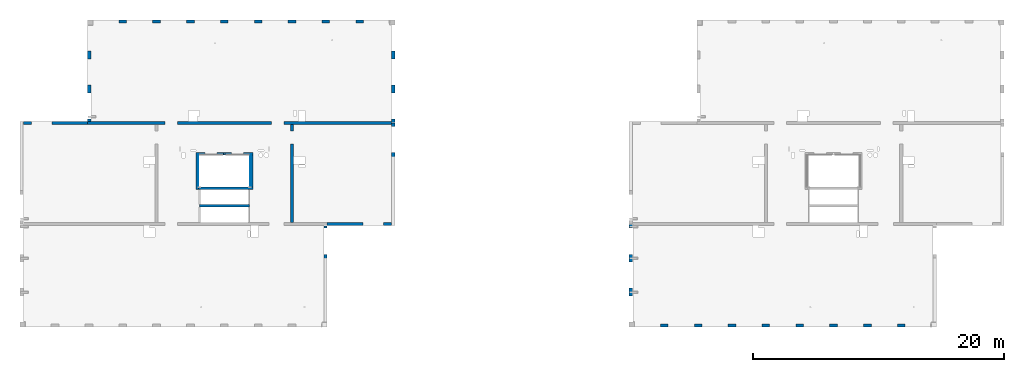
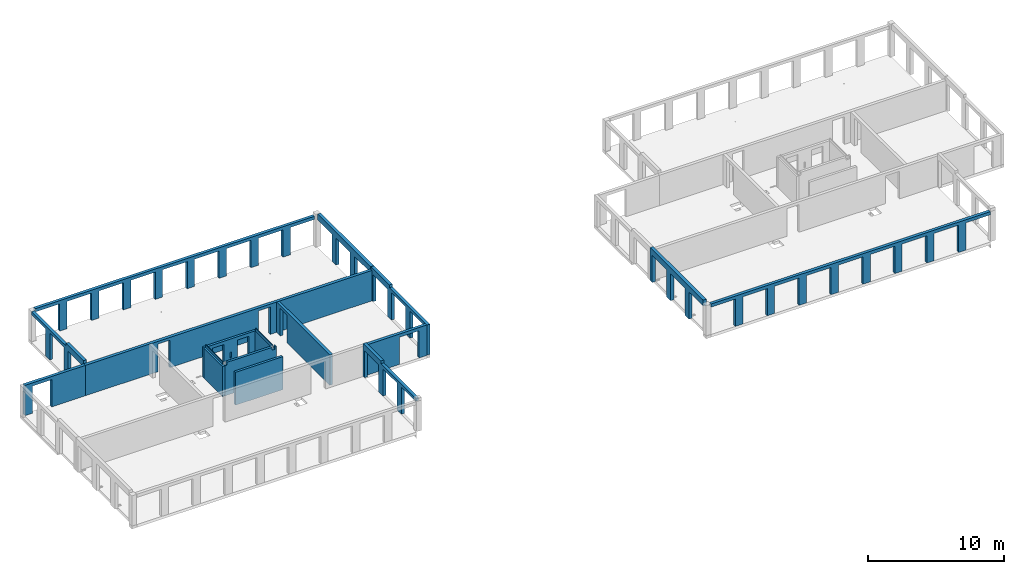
# One storey, part 3 of 8: 18 walls, 46 openings.
"""IFC2X3 building model written with IfcOpenShell, lengths in millimetres."""

from ifc_helpers import new_model, entity, si_unit, converted_unit, derived_unit, direction, frame, frame_2d, origin, origin_2d_with_axis, place, context, subcontext, project, spatial, rectangle, extrude, material, layer, layer_set, layer_usage, type_object, element, save


model = new_model("IFC2X3")

# Units and contexts
model_context = context("Model", 3, precision=0.01, world=origin(), true_north=direction((6.12303176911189e-17, 1.0)))
body_context = subcontext(model_context, "Body", "Model", "MODEL_VIEW")
ifc_project = project(units=[si_unit("LENGTHUNIT", "METRE", prefix="MILLI"), si_unit("AREAUNIT", "SQUARE_METRE"), si_unit("VOLUMEUNIT", "CUBIC_METRE"), converted_unit("PLANEANGLEUNIT", "DEGREE", entity("IfcRatioMeasure", 0.0174532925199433), si_unit("PLANEANGLEUNIT", "RADIAN"), dimensions=[0, 0, 0, 0, 0, 0, 0]), si_unit("MASSUNIT", "GRAM", prefix="KILO"), derived_unit("MASSDENSITYUNIT", [(si_unit("MASSUNIT", "GRAM", prefix="KILO"), 1), (si_unit("LENGTHUNIT", "METRE"), -3)]), si_unit("TIMEUNIT", "SECOND"), si_unit("FREQUENCYUNIT", "HERTZ"), si_unit("THERMODYNAMICTEMPERATUREUNIT", "DEGREE_CELSIUS"), derived_unit("THERMALTRANSMITTANCEUNIT", [(si_unit("MASSUNIT", "GRAM", prefix="KILO"), 1), (si_unit("THERMODYNAMICTEMPERATUREUNIT", "KELVIN"), -1), (si_unit("TIMEUNIT", "SECOND"), -3)]), derived_unit("VOLUMETRICFLOWRATEUNIT", [(si_unit("LENGTHUNIT", "METRE"), 3), (si_unit("TIMEUNIT", "SECOND"), -1)]), si_unit("ELECTRICCURRENTUNIT", "AMPERE"), si_unit("ELECTRICVOLTAGEUNIT", "VOLT"), si_unit("POWERUNIT", "WATT"), si_unit("FORCEUNIT", "NEWTON", prefix="KILO"), si_unit("ILLUMINANCEUNIT", "LUX"), si_unit("LUMINOUSFLUXUNIT", "LUMEN"), si_unit("LUMINOUSINTENSITYUNIT", "CANDELA"), derived_unit("USERDEFINED", [(si_unit("MASSUNIT", "GRAM", prefix="KILO"), -1), (si_unit("LENGTHUNIT", "METRE"), -2), (si_unit("TIMEUNIT", "SECOND"), 3), (si_unit("LUMINOUSFLUXUNIT", "LUMEN"), 1)]), derived_unit("LINEARVELOCITYUNIT", [(si_unit("LENGTHUNIT", "METRE"), 1), (si_unit("TIMEUNIT", "SECOND"), -1)]), si_unit("PRESSUREUNIT", "PASCAL"), derived_unit("USERDEFINED", [(si_unit("LENGTHUNIT", "METRE"), -2), (si_unit("MASSUNIT", "GRAM", prefix="KILO"), 1), (si_unit("TIMEUNIT", "SECOND"), -2)])], contexts=[model_context])

# Site, building, storey
site_placement = place(None, origin())
site = spatial("IfcSite", under=ifc_project, at=site_placement, Name="Default", CompositionType="ELEMENT")
building_placement = place(site_placement, origin())
building = spatial("IfcBuilding", under=site, at=building_placement, Name="niet gebruiken", CompositionType="ELEMENT")
storey_placement = place(building_placement, frame((0.0, 0.0, 42300.0)))
storey = spatial("IfcBuildingStorey", under=building, at=storey_placement, Name="14 veertiende verdieping", CompositionType="ELEMENT", Elevation=42300.0)

# Wall, opening
ifc_material_1 = material(Name="NLRS_f2_beton ihwg")
ifc_layer_1 = layer(ifc_material_1, 250.0)
ifc_layer_set_1 = layer_set([ifc_layer_1], Name="Basic Wall:NLRS_22.21_WA_beton ihwg d=250_gen")
ifc_layer_usage_1 = layer_usage(ifc_layer_set_1, "AXIS2", "NEGATIVE", 125.0)
wall_type_1 = type_object("IfcWallType", Name="Basic Wall:NLRS_22.21_WA_beton ihwg d=250_gen", PredefinedType="STANDARD", material=ifc_layer_set_1)
wall_1_placement = place(storey_placement, frame((27170.0, 45031.0, -90.0)))
wall_1 = element("IfcWallStandardCase", 1, at=wall_1_placement, inside=storey, type_object=wall_type_1, material=ifc_layer_usage_1, Name="Basic Wall:NLRS_22.21_WA_beton ihwg d=250_gen", ObjectType="Basic Wall:NLRS_22.21_WA_beton ihwg d=250_gen", context=body_context, shape_type="SweptSolid", body=[
    extrude(rectangle(XDim=5130.0, YDim=249.999999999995, at=frame_2d((2565.0, 0.0), x_axis=(-1.0, 0.0))), origin(), (0.0, 0.0, 1.0), 2719.99999999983),
])
opening_1_placement = place(wall_1_placement, origin())
element("IfcOpeningElement", 2, at=opening_1_placement, cuts=wall_1, Name="Basic Wall:NLRS_22.21_WA_beton ihwg d=250_gen", ObjectType="Opening", context=body_context, shape_type="SweptSolid", body=[
    extrude(rectangle(XDim=2440.0, YDim=1640.0, at=origin_2d_with_axis()), frame((1460.0, -1649.0, 1220.0), z_axis=(0.0, 1.0, 0.0), x_axis=(0.0, 0.0, 1.0)), (0.0, 0.0, 1.0), 3048.0),
])

ifc_layer_usage_2 = layer_usage(ifc_layer_set_1, "AXIS2", "NEGATIVE", 125.0)
wall_2_placement = place(storey_placement, frame((48600.0, 44906.0, -90.0), z_axis=(0.0, 0.0, 1.0), x_axis=(0.0, -1.0, 0.0)))
wall_2 = element("IfcWallStandardCase", 3, at=wall_2_placement, inside=storey, type_object=wall_type_1, material=ifc_layer_usage_2, Name="Basic Wall:NLRS_22.21_WA_beton ihwg d=250_gen", ObjectType="Basic Wall:NLRS_22.21_WA_beton ihwg d=250_gen", context=body_context, shape_type="SweptSolid", body=[
    extrude(rectangle(XDim=7799.99999999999, YDim=249.999999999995, at=frame_2d((3900.0, 0.0), x_axis=(-1.0, 0.0))), origin(), (0.0, 0.0, 1.0), 2719.99999999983),
])
opening_2_placement = place(wall_2_placement, origin())
element("IfcOpeningElement", 4, at=opening_2_placement, cuts=wall_2, Name="Basic Wall:NLRS_22.21_WA_beton ihwg d=250_gen", ObjectType="Opening", context=body_context, shape_type="SweptSolid", body=[
    extrude(rectangle(XDim=2470.0, YDim=1006.0, at=frame_2d((4.43378667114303e-12, 0.0), x_axis=(1.0, 0.0))), frame((1027.0, -1649.0, 1235.0), z_axis=(0.0, 1.0, 0.0), x_axis=(0.0, 0.0, 1.0)), (0.0, 0.0, 1.0), 3048.0),
])

# Wall, openings
ifc_layer_usage_3 = layer_usage(ifc_layer_set_1, "AXIS2", "NEGATIVE", 125.0)
wall_3_placement = place(storey_placement, frame((32300.0, 45031.0, -90.0)))
wall_3 = element("IfcWallStandardCase", 5, at=wall_3_placement, inside=storey, type_object=wall_type_1, material=ifc_layer_usage_3, Name="Basic Wall:NLRS_22.21_WA_beton ihwg d=250_gen", ObjectType="Basic Wall:NLRS_22.21_WA_beton ihwg d=250_gen", context=body_context, shape_type="SweptSolid", body=[
    extrude(rectangle(XDim=24250.0, YDim=249.999999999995, at=frame_2d((12125.0, 0.0), x_axis=(-1.0, 0.0))), origin(), (0.0, 0.0, 1.0), 2719.99999999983),
])
opening_3_placement = place(wall_3_placement, origin())
element("IfcOpeningElement", 6, at=opening_3_placement, cuts=wall_3, Name="Basic Wall:NLRS_22.21_WA_beton ihwg d=250_gen", ObjectType="Opening", context=body_context, shape_type="SweptSolid", body=[
    extrude(rectangle(XDim=2470.0, YDim=1006.0, at=frame_2d((-4.43378667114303e-12, 0.0), x_axis=(1.0, 0.0))), frame((15148.0, -1649.0, 1235.0), z_axis=(0.0, 1.0, 0.0), x_axis=(0.0, 0.0, 1.0)), (0.0, 0.0, 1.0), 3048.0),
])
opening_4_placement = place(wall_3_placement, origin())
element("IfcOpeningElement", 7, at=opening_4_placement, cuts=wall_3, Name="Basic Wall:NLRS_22.21_WA_beton ihwg d=250_gen", ObjectType="Opening", context=body_context, shape_type="SweptSolid", body=[
    extrude(rectangle(XDim=2470.0, YDim=1006.0, at=frame_2d((4.43378667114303e-12, 2.1600499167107e-12), x_axis=(1.0, 0.0))), frame((6652.0, -1649.0, 1235.0), z_axis=(0.0, 1.0, 0.0), x_axis=(0.0, 0.0, 1.0)), (0.0, 0.0, 1.0), 3048.0),
])

# Wall, opening
ifc_layer_usage_4 = layer_usage(ifc_layer_set_1, "AXIS2", "NEGATIVE", 125.0)
wall_4_placement = place(storey_placement, frame((51400.0, 36981.0, -90.0)))
wall_4 = element("IfcWallStandardCase", 8, at=wall_4_placement, inside=storey, type_object=wall_type_1, material=ifc_layer_usage_4, Name="Basic Wall:NLRS_22.21_WA_beton ihwg d=250_gen", ObjectType="Basic Wall:NLRS_22.21_WA_beton ihwg d=250_gen", context=body_context, shape_type="SweptSolid", body=[
    extrude(rectangle(XDim=5150.0, YDim=250.000000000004, at=frame_2d((2575.0, 0.0), x_axis=(-1.0, 0.0))), origin(), (0.0, 0.0, 1.0), 2719.99999999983),
])
opening_5_placement = place(wall_4_placement, origin())
element("IfcOpeningElement", 9, at=opening_5_placement, cuts=wall_4, Name="Basic Wall:NLRS_22.21_WA_beton ihwg d=250_gen", ObjectType="Opening", context=body_context, shape_type="SweptSolid", body=[
    extrude(rectangle(XDim=2440.0, YDim=1640.0, at=frame_2d((-4.37694325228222e-12, 0.0), x_axis=(0.0, 1.0))), frame((3670.0, -1399.0, 1220.0), z_axis=(0.0, 1.0, 0.0), x_axis=(-1.0, 0.0, 0.0)), (0.0, 0.0, 1.0), 3048.0),
])

# Wall, openings
ifc_material_2 = material(Name="NLRS_f2_beton prefab")
ifc_layer_2 = layer(ifc_material_2, 250.0)
ifc_layer_set_2 = layer_set([ifc_layer_2], Name="Basic Wall:NLRS_21.21_WA_beton prefab d=250_gen")
ifc_layer_usage_5 = layer_usage(ifc_layer_set_2, "AXIS2", "NEGATIVE", 125.0)
wall_type_2 = type_object("IfcWallType", Name="Basic Wall:NLRS_21.21_WA_beton prefab d=250_gen", PredefinedType="STANDARD", material=ifc_layer_set_2)
wall_5_placement = place(storey_placement, frame((32425.0, 52846.0, -70.0), z_axis=(0.0, 0.0, 1.0), x_axis=(0.0, -1.0, 0.0)))
wall_5 = element("IfcWallStandardCase", 10, at=wall_5_placement, inside=storey, type_object=wall_type_2, material=ifc_layer_usage_5, Name="Basic Wall:NLRS_21.21_WA_beton prefab d=250_gen", ObjectType="Basic Wall:NLRS_21.21_WA_beton prefab d=250_gen", context=body_context, shape_type="SweptSolid", body=[
    extrude(rectangle(XDim=7670.00000000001, YDim=250.000000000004, at=frame_2d((3835.0, 0.0), x_axis=(-1.0, 0.0))), origin(), (0.0, 0.0, 1.0), 2949.99999999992),
])
opening_6_placement = place(wall_5_placement, origin())
element("IfcOpeningElement", 11, at=opening_6_placement, cuts=wall_5, Name="Basic Wall:NLRS_21.21_WA_beton prefab d=250_gen", ObjectType="Opening", context=body_context, shape_type="SweptSolid", body=[
    extrude(rectangle(XDim=2420.0, YDim=2080.0, at=frame_2d((0.0, 0.0), x_axis=(0.0, 1.0))), frame((1040.0, -1399.0, 1210.0), z_axis=(0.0, 1.0, 0.0), x_axis=(-1.0, 0.0, 0.0)), (0.0, 0.0, 1.0), 3048.0),
])
opening_7_placement = place(wall_5_placement, origin())
element("IfcOpeningElement", 12, at=opening_7_placement, cuts=wall_5, Name="Basic Wall:NLRS_21.21_WA_beton prefab d=250_gen", ObjectType="Opening", context=body_context, shape_type="SweptSolid", body=[
    extrude(rectangle(XDim=2420.0, YDim=2080.0, at=frame_2d((0.0, 0.0), x_axis=(0.0, 1.0))), frame((3740.0, -1399.0, 1210.0), z_axis=(0.0, 1.0, 0.0), x_axis=(-1.0, 0.0, 0.0)), (0.0, 0.0, 1.0), 3048.0),
])
opening_8_placement = place(wall_5_placement, origin())
element("IfcOpeningElement", 13, at=opening_8_placement, cuts=wall_5, Name="Basic Wall:NLRS_21.21_WA_beton prefab d=250_gen", ObjectType="Opening", context=body_context, shape_type="SweptSolid", body=[
    extrude(rectangle(XDim=2420.0, YDim=2080.0, at=frame_2d((0.0, 0.0), x_axis=(0.0, 1.0))), frame((6440.0, -1399.0, 1210.0), z_axis=(0.0, 1.0, 0.0), x_axis=(-1.0, 0.0, 0.0)), (0.0, 0.0, 1.0), 3048.0),
])
opening_9_placement = place(wall_5_placement, origin())
element("IfcOpeningElement", 14, at=opening_9_placement, cuts=wall_5, Name="Basic Wall:NLRS_21.21_WA_beton prefab d=250_gen", ObjectType="Opening", context=body_context, shape_type="SweptSolid", body=[
    extrude(rectangle(XDim=250.000000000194, YDim=5089.99999999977, at=frame_2d((4.32009983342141e-12, -4.32720526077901e-12), x_axis=(0.0, 1.0))), frame((2545.0, 125.0, 2825.0), z_axis=(0.0, -1.0, 0.0), x_axis=(-1.0, 0.0, 0.0)), (0.0, 0.0, 1.0), 250.0),
])

ifc_layer_usage_6 = layer_usage(ifc_layer_set_2, "AXIS2", "NEGATIVE", 125.0)
wall_6_placement = place(storey_placement, frame((56675.0, 45046.0, -70.0), z_axis=(0.0, 0.0, 1.0), x_axis=(0.0, -1.0, 0.0)))
wall_6 = element("IfcWallStandardCase", 15, at=wall_6_placement, inside=storey, type_object=wall_type_2, material=ifc_layer_usage_6, Name="Basic Wall:NLRS_21.21_WA_beton prefab d=250_gen", ObjectType="Basic Wall:NLRS_21.21_WA_beton prefab d=250_gen", context=body_context, shape_type="SweptSolid", body=[
    extrude(rectangle(XDim=8189.99999999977, YDim=249.999999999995, at=frame_2d((4094.99999999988, 0.0), x_axis=(-1.0, 0.0))), origin(), (0.0, 0.0, 1.0), 2949.99999999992),
])
opening_10_placement = place(wall_6_placement, origin())
element("IfcOpeningElement", 16, at=opening_10_placement, cuts=wall_6, Name="Basic Wall:NLRS_21.21_WA_beton prefab d=250_gen", ObjectType="Opening", context=body_context, shape_type="SweptSolid", body=[
    extrude(rectangle(XDim=2420.0, YDim=2080.0, at=frame_2d((0.0, 0.0), x_axis=(0.0, 1.0))), frame((1340.0, -1399.0, 1210.0), z_axis=(0.0, 1.0, 0.0), x_axis=(-1.0, 0.0, 0.0)), (0.0, 0.0, 1.0), 3048.0),
])
opening_11_placement = place(wall_6_placement, origin())
element("IfcOpeningElement", 17, at=opening_11_placement, cuts=wall_6, Name="Basic Wall:NLRS_21.21_WA_beton prefab d=250_gen", ObjectType="Opening", context=body_context, shape_type="SweptSolid", body=[
    extrude(rectangle(XDim=2420.0, YDim=2080.0, at=frame_2d((0.0, 0.0), x_axis=(0.0, 1.0))), frame((4040.0, -1399.0, 1210.0), z_axis=(0.0, 1.0, 0.0), x_axis=(-1.0, 0.0, 0.0)), (0.0, 0.0, 1.0), 3048.0),
])
opening_12_placement = place(wall_6_placement, origin())
element("IfcOpeningElement", 18, at=opening_12_placement, cuts=wall_6, Name="Basic Wall:NLRS_21.21_WA_beton prefab d=250_gen", ObjectType="Opening", context=body_context, shape_type="SweptSolid", body=[
    extrude(rectangle(XDim=2420.0, YDim=2080.0, at=frame_2d((0.0, 0.0), x_axis=(0.0, 1.0))), frame((6740.0, -1399.0, 1210.0), z_axis=(0.0, 1.0, 0.0), x_axis=(-1.0, 0.0, 0.0)), (0.0, 0.0, 1.0), 3048.0),
])
opening_13_placement = place(wall_6_placement, origin())
element("IfcOpeningElement", 19, at=opening_13_placement, cuts=wall_6, Name="Basic Wall:NLRS_21.21_WA_beton prefab d=250_gen", ObjectType="Opening", context=body_context, shape_type="SweptSolid", body=[
    extrude(rectangle(XDim=249.999999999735, YDim=5500.0000000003, at=frame_2d((0.0, -4.32009983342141e-12), x_axis=(1.0, 0.0))), frame((5440.0, 125.0, 2825.0), z_axis=(0.0, -1.0, 0.0), x_axis=(0.0, 0.0, 1.0)), (0.0, 0.0, 1.0), 250.0),
])

ifc_layer_usage_7 = layer_usage(ifc_layer_set_2, "AXIS2", "NEGATIVE", 125.0)
wall_7_placement = place(storey_placement, frame((51275.0, 29166.0, -70.0), z_axis=(0.0, 0.0, 1.0), x_axis=(0.0, 1.0, 0.0)))
wall_7 = element("IfcWallStandardCase", 20, at=wall_7_placement, inside=storey, type_object=wall_type_2, material=ifc_layer_usage_7, Name="Basic Wall:NLRS_21.21_WA_beton prefab d=250_gen", ObjectType="Basic Wall:NLRS_21.21_WA_beton prefab d=250_gen", context=body_context, shape_type="SweptSolid", body=[
    extrude(rectangle(XDim=7669.99999999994, YDim=249.999999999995, at=frame_2d((3834.99999999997, 0.0), x_axis=(-1.0, 0.0))), origin(), (0.0, 0.0, 1.0), 2949.99999999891),
])
opening_14_placement = place(wall_7_placement, origin())
element("IfcOpeningElement", 21, at=opening_14_placement, cuts=wall_7, Name="Basic Wall:NLRS_21.21_WA_beton prefab d=250_gen", ObjectType="Opening", context=body_context, shape_type="SweptSolid", body=[
    extrude(rectangle(XDim=2420.0, YDim=2080.0, at=frame_2d((-2.1600499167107e-12, 0.0), x_axis=(0.0, 1.0))), frame((1040.0, -1399.0, 1210.0), z_axis=(0.0, 1.0, 0.0), x_axis=(-1.0, 0.0, 0.0)), (0.0, 0.0, 1.0), 3048.0),
])
opening_15_placement = place(wall_7_placement, origin())
element("IfcOpeningElement", 22, at=opening_15_placement, cuts=wall_7, Name="Basic Wall:NLRS_21.21_WA_beton prefab d=250_gen", ObjectType="Opening", context=body_context, shape_type="SweptSolid", body=[
    extrude(rectangle(XDim=2420.0, YDim=2080.0, at=frame_2d((2.1600499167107e-12, 0.0), x_axis=(0.0, 1.0))), frame((6440.0, -1399.0, 1210.0), z_axis=(0.0, 1.0, 0.0), x_axis=(-1.0, 0.0, 0.0)), (0.0, 0.0, 1.0), 3048.0),
])
opening_16_placement = place(wall_7_placement, origin())
element("IfcOpeningElement", 23, at=opening_16_placement, cuts=wall_7, Name="Basic Wall:NLRS_21.21_WA_beton prefab d=250_gen", ObjectType="Opening", context=body_context, shape_type="SweptSolid", body=[
    extrude(rectangle(XDim=2420.0, YDim=2080.0, at=frame_2d((2.1600499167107e-12, 0.0), x_axis=(0.0, 1.0))), frame((3740.0, -1399.0, 1210.0), z_axis=(0.0, 1.0, 0.0), x_axis=(-1.0, 0.0, 0.0)), (0.0, 0.0, 1.0), 3048.0),
])
opening_17_placement = place(wall_7_placement, origin())
element("IfcOpeningElement", 24, at=opening_17_placement, cuts=wall_7, Name="Basic Wall:NLRS_21.21_WA_beton prefab d=250_gen", ObjectType="Opening", context=body_context, shape_type="SweptSolid", body=[
    extrude(rectangle(XDim=249.999999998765, YDim=5090.00000000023, at=frame_2d((0.0, 0.0), x_axis=(0.0, 1.0))), frame((2545.0, 125.0, 2825.0), z_axis=(0.0, -1.0, 0.0), x_axis=(-1.0, 0.0, 0.0)), (0.0, 0.0, 1.0), 250.0),
])

# Wall
ifc_layer_3 = layer(ifc_material_2, 200.0)
ifc_layer_set_3 = layer_set([ifc_layer_3], Name="Basic Wall:NLRS_21.21_WA_beton prefab d=200_gen")
ifc_layer_usage_8 = layer_usage(ifc_layer_set_3, "AXIS2", "NEGATIVE", 100.0)
wall_type_3 = type_object("IfcWallType", Name="Basic Wall:NLRS_21.21_WA_beton prefab d=200_gen", PredefinedType="STANDARD", material=ifc_layer_set_3)
wall_8_placement = place(storey_placement, frame((41200.0, 38426.0, -70.0)))
element("IfcWallStandardCase", 25, at=wall_8_placement, inside=storey, type_object=wall_type_3, material=ifc_layer_usage_8, Name="Basic Wall:NLRS_21.21_WA_beton prefab d=200_gen", ObjectType="Basic Wall:NLRS_21.21_WA_beton prefab d=200_gen", context=body_context, shape_type="SweptSolid", body=[
    extrude(rectangle(XDim=3999.99999999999, YDim=199.999999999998, at=frame_2d((2000.0, 0.0), x_axis=(-1.0, 0.0))), origin(), (0.0, 0.0, 1.0), 2950.00000000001),
])

# Wall, openings
ifc_layer_4 = layer(ifc_material_2, 200.0)
ifc_layer_set_4 = layer_set([ifc_layer_4], Name="Basic Wall:NLRS_22.21_WA_beton prefab d=200_gen")
ifc_layer_usage_9 = layer_usage(ifc_layer_set_4, "AXIS2", "NEGATIVE", 100.0)
wall_type_4 = type_object("IfcWallType", Name="Basic Wall:NLRS_22.21_WA_beton prefab d=200_gen", PredefinedType="STANDARD", material=ifc_layer_set_4)
wall_9_placement = place(storey_placement, frame((40925.0, 42596.0, -70.0)))
wall_9 = element("IfcWallStandardCase", 26, at=wall_9_placement, inside=storey, type_object=wall_type_4, material=ifc_layer_usage_9, Name="Basic Wall:NLRS_22.21_WA_beton prefab d=200_gen", ObjectType="Basic Wall:NLRS_22.21_WA_beton prefab d=200_gen", context=body_context, shape_type="SweptSolid", body=[
    extrude(rectangle(XDim=4549.99999999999, YDim=200.000000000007, at=frame_2d((2274.99999999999, 7.8159700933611e-13), x_axis=(-1.0, 0.0))), origin(), (0.0, 0.0, 1.0), 2700.00000000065),
])
opening_18_placement = place(wall_9_placement, origin())
element("IfcOpeningElement", 27, at=opening_18_placement, cuts=wall_9, Name="Basic Wall:NLRS_22.21_WA_beton prefab d=200_gen", ObjectType="Opening", context=body_context, shape_type="SweptSolid", body=[
    extrude(rectangle(XDim=2430.0, YDim=980.000000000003, at=origin_2d_with_axis()), frame((1219.99984910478, -1624.0, 1195.0), z_axis=(0.0, 1.0, 0.0), x_axis=(0.0, 0.0, 1.0)), (0.0, 0.0, 1.0), 3048.0),
])
opening_19_placement = place(wall_9_placement, origin())
element("IfcOpeningElement", 28, at=opening_19_placement, cuts=wall_9, Name="Basic Wall:NLRS_22.21_WA_beton prefab d=200_gen", ObjectType="Opening", context=body_context, shape_type="SweptSolid", body=[
    extrude(rectangle(XDim=2430.0, YDim=980.000000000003, at=origin_2d_with_axis()), frame((3329.99984910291, -1624.0, 1195.0), z_axis=(0.0, 1.0, 0.0), x_axis=(0.0, 0.0, 1.0)), (0.0, 0.0, 1.0), 3048.0),
])
opening_20_placement = place(wall_9_placement, origin())
element("IfcOpeningElement", 29, at=opening_20_placement, cuts=wall_9, Name="Basic Wall:NLRS_22.21_WA_beton prefab d=200_gen", ObjectType="Opening", context=body_context, shape_type="SweptSolid", body=[
    extrude(rectangle(XDim=505.000000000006, YDim=135.000000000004, at=frame_2d((-4.33431068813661e-12, 0.0), x_axis=(1.0, 0.0))), frame((2275.0, -1624.0, 1272.50000000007), z_axis=(0.0, 1.0, 0.0), x_axis=(0.0, 0.0, 1.0)), (0.0, 0.0, 1.0), 3048.0),
])

# Wall
ifc_layer_usage_10 = layer_usage(ifc_layer_set_4, "AXIS2", "NEGATIVE", 100.0)
wall_10_placement = place(storey_placement, frame((41025.0, 42496.0, -70.0), z_axis=(0.0, 0.0, 1.0), x_axis=(0.0, -1.0, 0.0)))
element("IfcWallStandardCase", 30, at=wall_10_placement, inside=storey, type_object=wall_type_4, material=ifc_layer_usage_10, Name="Basic Wall:NLRS_22.21_WA_beton prefab d=200_gen", ObjectType="Basic Wall:NLRS_22.21_WA_beton prefab d=200_gen", context=body_context, shape_type="SweptSolid", body=[
    extrude(rectangle(XDim=2749.99999999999, YDim=200.000000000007, at=frame_2d((1375.0, 0.0), x_axis=(-1.0, 0.0))), origin(), (0.0, 0.0, 1.0), 2699.99999999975),
])

# Wall, openings
ifc_layer_usage_11 = layer_usage(ifc_layer_set_4, "AXIS2", "NEGATIVE", 100.0)
wall_11_placement = place(storey_placement, frame((45475.0, 39846.0, -70.0), z_axis=(0.0, 0.0, 1.0), x_axis=(-1.0, 0.0, 0.0)))
wall_11 = element("IfcWallStandardCase", 31, at=wall_11_placement, inside=storey, type_object=wall_type_4, material=ifc_layer_usage_11, Name="Basic Wall:NLRS_22.21_WA_beton prefab d=200_gen", ObjectType="Basic Wall:NLRS_22.21_WA_beton prefab d=200_gen", context=body_context, shape_type="SweptSolid", body=[
    extrude(rectangle(XDim=4349.99999999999, YDim=200.000000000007, at=frame_2d((2174.99999999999, 0.0), x_axis=(-1.0, 0.0))), origin(), (0.0, 0.0, 1.0), 2949.99999999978),
])
opening_21_placement = place(wall_11_placement, origin())
element("IfcOpeningElement", 32, at=opening_21_placement, cuts=wall_11, Name="Basic Wall:NLRS_22.21_WA_beton prefab d=200_gen", ObjectType="Opening", context=body_context, shape_type="SweptSolid", body=[
    extrude(rectangle(XDim=249.999999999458, YDim=274.9999671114, at=frame_2d((0.0, -4.33431068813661e-12), x_axis=(1.0, 0.0))), frame((4312.50001644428, 100.0, 2825.0), z_axis=(0.0, -1.0, 0.0), x_axis=(0.0, 0.0, 1.0)), (0.0, 0.0, 1.0), 200.0),
])
opening_22_placement = place(wall_11_placement, origin())
element("IfcOpeningElement", 33, at=opening_22_placement, cuts=wall_11, Name="Basic Wall:NLRS_22.21_WA_beton prefab d=200_gen", ObjectType="Opening", context=body_context, shape_type="SweptSolid", body=[
    extrude(rectangle(XDim=249.999999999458, YDim=274.999967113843, at=frame_2d((-4.32009983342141e-12, 0.0), x_axis=(0.0, 1.0))), frame((237.499983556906, 100.0, 2825.0), z_axis=(0.0, -1.0, 0.0), x_axis=(-1.0, 0.0, 0.0)), (0.0, 0.0, 1.0), 200.0),
])

# Wall
ifc_layer_usage_12 = layer_usage(ifc_layer_set_4, "AXIS2", "NEGATIVE", 100.0)
wall_12_placement = place(storey_placement, frame((45375.0, 39946.0, -70.0), z_axis=(0.0, 0.0, 1.0), x_axis=(0.0, 1.0, 0.0)))
element("IfcWallStandardCase", 34, at=wall_12_placement, inside=storey, type_object=wall_type_4, material=ifc_layer_usage_12, Name="Basic Wall:NLRS_22.21_WA_beton prefab d=200_gen", ObjectType="Basic Wall:NLRS_22.21_WA_beton prefab d=200_gen", context=body_context, shape_type="SweptSolid", body=[
    extrude(rectangle(XDim=2549.99999999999, YDim=200.000000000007, at=frame_2d((1275.0, 0.0), x_axis=(-1.0, 0.0))), origin(), (0.0, 0.0, 1.0), 2699.99999999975),
])

# Wall, openings
ifc_layer_5 = layer(ifc_material_1, 250.0)
ifc_layer_set_5 = layer_set([ifc_layer_5], Name="Basic Wall:NLRS_21.21_WA_beton ihwg d=250_gen")
ifc_layer_usage_13 = layer_usage(ifc_layer_set_5, "AXIS2", "NEGATIVE", 125.0)
wall_type_5 = type_object("IfcWallType", Name="Basic Wall:NLRS_21.21_WA_beton ihwg d=250_gen", PredefinedType="STANDARD", material=ifc_layer_set_5)
wall_13_placement = place(storey_placement, frame((75930.0, 28881.0, -90.0)))
wall_13 = element("IfcWallStandardCase", 35, at=wall_13_placement, inside=storey, type_object=wall_type_5, material=ifc_layer_usage_13, Name="Basic Wall:NLRS_21.21_WA_beton ihwg d=250_gen", ObjectType="Basic Wall:NLRS_21.21_WA_beton ihwg d=250_gen", context=body_context, shape_type="SweptSolid", body=[
    extrude(rectangle(XDim=23640.0000000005, YDim=250.000000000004, at=frame_2d((11820.0000000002, -8.66862137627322e-13), x_axis=(-1.0, 0.0))), origin(), (0.0, 0.0, 1.0), 2720.00000000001),
])
opening_23_placement = place(wall_13_placement, origin())
element("IfcOpeningElement", 36, at=opening_23_placement, cuts=wall_13, Name="Basic Wall:NLRS_21.21_WA_beton ihwg d=250_gen", ObjectType="Opening", context=body_context, shape_type="SweptSolid", body=[
    extrude(rectangle(XDim=2440.0, YDim=2080.0, at=frame_2d((8.64019966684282e-12, 0.0), x_axis=(0.0, 1.0))), frame((22620.0, -1399.0, 1220.0), z_axis=(0.0, 1.0, 0.0), x_axis=(-1.0, 0.0, 0.0)), (0.0, 0.0, 1.0), 3048.0),
])
opening_24_placement = place(wall_13_placement, origin())
element("IfcOpeningElement", 37, at=opening_24_placement, cuts=wall_13, Name="Basic Wall:NLRS_21.21_WA_beton ihwg d=250_gen", ObjectType="Opening", context=body_context, shape_type="SweptSolid", body=[
    extrude(rectangle(XDim=2440.0, YDim=2080.0, at=frame_2d((8.64019966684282e-12, 0.0), x_axis=(0.0, 1.0))), frame((19920.0, -1399.0, 1220.0), z_axis=(0.0, 1.0, 0.0), x_axis=(-1.0, 0.0, 0.0)), (0.0, 0.0, 1.0), 3048.0),
])
opening_25_placement = place(wall_13_placement, origin())
element("IfcOpeningElement", 38, at=opening_25_placement, cuts=wall_13, Name="Basic Wall:NLRS_21.21_WA_beton ihwg d=250_gen", ObjectType="Opening", context=body_context, shape_type="SweptSolid", body=[
    extrude(rectangle(XDim=2440.0, YDim=2080.0, at=frame_2d((8.64019966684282e-12, 0.0), x_axis=(0.0, 1.0))), frame((17220.0, -1399.0, 1220.0), z_axis=(0.0, 1.0, 0.0), x_axis=(-1.0, 0.0, 0.0)), (0.0, 0.0, 1.0), 3048.0),
])
opening_26_placement = place(wall_13_placement, origin())
element("IfcOpeningElement", 39, at=opening_26_placement, cuts=wall_13, Name="Basic Wall:NLRS_21.21_WA_beton ihwg d=250_gen", ObjectType="Opening", context=body_context, shape_type="SweptSolid", body=[
    extrude(rectangle(XDim=2440.0, YDim=2080.0, at=frame_2d((-8.64019966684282e-12, 0.0), x_axis=(0.0, 1.0))), frame((14520.0, -1399.0, 1220.0), z_axis=(0.0, 1.0, 0.0), x_axis=(-1.0, 0.0, 0.0)), (0.0, 0.0, 1.0), 3048.0),
])
opening_27_placement = place(wall_13_placement, origin())
element("IfcOpeningElement", 40, at=opening_27_placement, cuts=wall_13, Name="Basic Wall:NLRS_21.21_WA_beton ihwg d=250_gen", ObjectType="Opening", context=body_context, shape_type="SweptSolid", body=[
    extrude(rectangle(XDim=2440.0, YDim=2080.0, at=frame_2d((8.64019966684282e-12, 0.0), x_axis=(0.0, 1.0))), frame((11820.0, -1399.0, 1220.0), z_axis=(0.0, 1.0, 0.0), x_axis=(-1.0, 0.0, 0.0)), (0.0, 0.0, 1.0), 3048.0),
])
opening_28_placement = place(wall_13_placement, origin())
element("IfcOpeningElement", 41, at=opening_28_placement, cuts=wall_13, Name="Basic Wall:NLRS_21.21_WA_beton ihwg d=250_gen", ObjectType="Opening", context=body_context, shape_type="SweptSolid", body=[
    extrude(rectangle(XDim=2440.0, YDim=2080.0, at=frame_2d((8.64019966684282e-12, 0.0), x_axis=(0.0, 1.0))), frame((9120.0, -1399.0, 1220.0), z_axis=(0.0, 1.0, 0.0), x_axis=(-1.0, 0.0, 0.0)), (0.0, 0.0, 1.0), 3048.0),
])
opening_29_placement = place(wall_13_placement, origin())
element("IfcOpeningElement", 42, at=opening_29_placement, cuts=wall_13, Name="Basic Wall:NLRS_21.21_WA_beton ihwg d=250_gen", ObjectType="Opening", context=body_context, shape_type="SweptSolid", body=[
    extrude(rectangle(XDim=2440.0, YDim=2080.0, at=frame_2d((-8.64019966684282e-12, 0.0), x_axis=(0.0, 1.0))), frame((6420.0, -1399.0, 1220.0), z_axis=(0.0, 1.0, 0.0), x_axis=(-1.0, 0.0, 0.0)), (0.0, 0.0, 1.0), 3048.0),
])
opening_30_placement = place(wall_13_placement, origin())
element("IfcOpeningElement", 43, at=opening_30_placement, cuts=wall_13, Name="Basic Wall:NLRS_21.21_WA_beton ihwg d=250_gen", ObjectType="Opening", context=body_context, shape_type="SweptSolid", body=[
    extrude(rectangle(XDim=2440.0, YDim=2080.0, at=frame_2d((-8.64019966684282e-12, 0.0), x_axis=(0.0, 1.0))), frame((3720.0, -1399.0, 1220.0), z_axis=(0.0, 1.0, 0.0), x_axis=(-1.0, 0.0, 0.0)), (0.0, 0.0, 1.0), 3048.0),
])
opening_31_placement = place(wall_13_placement, origin())
element("IfcOpeningElement", 44, at=opening_31_placement, cuts=wall_13, Name="Basic Wall:NLRS_21.21_WA_beton ihwg d=250_gen", ObjectType="Opening", context=body_context, shape_type="SweptSolid", body=[
    extrude(rectangle(XDim=2440.0, YDim=2080.0, at=frame_2d((0.0, 0.0), x_axis=(0.0, 1.0))), frame((1020.0, -1399.0, 1220.0), z_axis=(0.0, 1.0, 0.0), x_axis=(-1.0, 0.0, 0.0)), (0.0, 0.0, 1.0), 3048.0),
])

ifc_layer_usage_14 = layer_usage(ifc_layer_set_5, "AXIS2", "NEGATIVE", 125.0)
wall_14_placement = place(storey_placement, frame((56370.0, 53131.0, -90.0), z_axis=(0.0, 0.0, 1.0), x_axis=(-1.0, 0.0, 0.0)))
wall_14 = element("IfcWallStandardCase", 45, at=wall_14_placement, inside=storey, type_object=wall_type_5, material=ifc_layer_usage_14, Name="Basic Wall:NLRS_21.21_WA_beton ihwg d=250_gen", ObjectType="Basic Wall:NLRS_21.21_WA_beton ihwg d=250_gen", context=body_context, shape_type="SweptSolid", body=[
    extrude(rectangle(XDim=23640.0000000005, YDim=249.999999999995, at=frame_2d((11820.0000000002, 5.82645043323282e-13), x_axis=(-1.0, 0.0))), origin(), (0.0, 0.0, 1.0), 2720.00000000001),
])
opening_32_placement = place(wall_14_placement, origin())
element("IfcOpeningElement", 46, at=opening_32_placement, cuts=wall_14, Name="Basic Wall:NLRS_21.21_WA_beton ihwg d=250_gen", ObjectType="Opening", context=body_context, shape_type="SweptSolid", body=[
    extrude(rectangle(XDim=2440.0, YDim=2080.0, at=frame_2d((-2.1600499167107e-12, 0.0), x_axis=(0.0, 1.0))), frame((22620.0, -1399.0, 1220.0), z_axis=(0.0, 1.0, 0.0), x_axis=(-1.0, 0.0, 0.0)), (0.0, 0.0, 1.0), 3048.0),
])
opening_33_placement = place(wall_14_placement, origin())
element("IfcOpeningElement", 47, at=opening_33_placement, cuts=wall_14, Name="Basic Wall:NLRS_21.21_WA_beton ihwg d=250_gen", ObjectType="Opening", context=body_context, shape_type="SweptSolid", body=[
    extrude(rectangle(XDim=2440.0, YDim=2080.0, at=frame_2d((2.1600499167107e-12, 0.0), x_axis=(0.0, 1.0))), frame((19920.0, -1399.0, 1220.0), z_axis=(0.0, 1.0, 0.0), x_axis=(-1.0, 0.0, 0.0)), (0.0, 0.0, 1.0), 3048.0),
])
opening_34_placement = place(wall_14_placement, origin())
element("IfcOpeningElement", 48, at=opening_34_placement, cuts=wall_14, Name="Basic Wall:NLRS_21.21_WA_beton ihwg d=250_gen", ObjectType="Opening", context=body_context, shape_type="SweptSolid", body=[
    extrude(rectangle(XDim=2440.0, YDim=2079.99999999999, at=frame_2d((2.1600499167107e-12, 0.0), x_axis=(0.0, 1.0))), frame((17220.0, -1399.0, 1220.0), z_axis=(0.0, 1.0, 0.0), x_axis=(-1.0, 0.0, 0.0)), (0.0, 0.0, 1.0), 3048.0),
])
opening_35_placement = place(wall_14_placement, origin())
element("IfcOpeningElement", 49, at=opening_35_placement, cuts=wall_14, Name="Basic Wall:NLRS_21.21_WA_beton ihwg d=250_gen", ObjectType="Opening", context=body_context, shape_type="SweptSolid", body=[
    extrude(rectangle(XDim=2440.0, YDim=2080.0, at=frame_2d((0.0, 0.0), x_axis=(0.0, 1.0))), frame((14520.0, -1399.0, 1220.0), z_axis=(0.0, 1.0, 0.0), x_axis=(-1.0, 0.0, 0.0)), (0.0, 0.0, 1.0), 3048.0),
])
opening_36_placement = place(wall_14_placement, origin())
element("IfcOpeningElement", 50, at=opening_36_placement, cuts=wall_14, Name="Basic Wall:NLRS_21.21_WA_beton ihwg d=250_gen", ObjectType="Opening", context=body_context, shape_type="SweptSolid", body=[
    extrude(rectangle(XDim=2440.0, YDim=2080.0, at=frame_2d((0.0, 0.0), x_axis=(0.0, 1.0))), frame((11820.0, -1399.0, 1220.0), z_axis=(0.0, 1.0, 0.0), x_axis=(-1.0, 0.0, 0.0)), (0.0, 0.0, 1.0), 3048.0),
])
opening_37_placement = place(wall_14_placement, origin())
element("IfcOpeningElement", 51, at=opening_37_placement, cuts=wall_14, Name="Basic Wall:NLRS_21.21_WA_beton ihwg d=250_gen", ObjectType="Opening", context=body_context, shape_type="SweptSolid", body=[
    extrude(rectangle(XDim=2440.0, YDim=2080.0, at=frame_2d((0.0, 0.0), x_axis=(0.0, 1.0))), frame((9120.0, -1399.0, 1220.0), z_axis=(0.0, 1.0, 0.0), x_axis=(-1.0, 0.0, 0.0)), (0.0, 0.0, 1.0), 3048.0),
])
opening_38_placement = place(wall_14_placement, origin())
element("IfcOpeningElement", 52, at=opening_38_placement, cuts=wall_14, Name="Basic Wall:NLRS_21.21_WA_beton ihwg d=250_gen", ObjectType="Opening", context=body_context, shape_type="SweptSolid", body=[
    extrude(rectangle(XDim=2440.0, YDim=2080.0, at=frame_2d((0.0, 0.0), x_axis=(0.0, 1.0))), frame((6420.0, -1399.0, 1220.0), z_axis=(0.0, 1.0, 0.0), x_axis=(-1.0, 0.0, 0.0)), (0.0, 0.0, 1.0), 3048.0),
])
opening_39_placement = place(wall_14_placement, origin())
element("IfcOpeningElement", 53, at=opening_39_placement, cuts=wall_14, Name="Basic Wall:NLRS_21.21_WA_beton ihwg d=250_gen", ObjectType="Opening", context=body_context, shape_type="SweptSolid", body=[
    extrude(rectangle(XDim=2440.0, YDim=2080.0, at=frame_2d((0.0, 0.0), x_axis=(0.0, 1.0))), frame((3720.0, -1399.0, 1220.0), z_axis=(0.0, 1.0, 0.0), x_axis=(-1.0, 0.0, 0.0)), (0.0, 0.0, 1.0), 3048.0),
])
opening_40_placement = place(wall_14_placement, origin())
element("IfcOpeningElement", 54, at=opening_40_placement, cuts=wall_14, Name="Basic Wall:NLRS_21.21_WA_beton ihwg d=250_gen", ObjectType="Opening", context=body_context, shape_type="SweptSolid", body=[
    extrude(rectangle(XDim=2440.0, YDim=2080.0, at=frame_2d((8.64019966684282e-12, 0.0), x_axis=(0.0, 1.0))), frame((1020.0, -1399.0, 1220.0), z_axis=(0.0, 1.0, 0.0), x_axis=(-1.0, 0.0, 0.0)), (0.0, 0.0, 1.0), 3048.0),
])

ifc_layer_6 = layer(ifc_material_2, 270.0)
ifc_layer_set_6 = layer_set([ifc_layer_6], Name="Basic Wall:NLRS_21.21_WA_beton prefab d=270_gen")
ifc_layer_usage_15 = layer_usage(ifc_layer_set_6, "AXIS2", "NEGATIVE", 135.0)
wall_type_6 = type_object("IfcWallType", Name="Basic Wall:NLRS_21.21_WA_beton prefab d=270_gen", PredefinedType="STANDARD", material=ifc_layer_set_6)
wall_15_placement = place(storey_placement, frame((75635.0, 36946.0, -70.0), z_axis=(0.0, 0.0, 1.0), x_axis=(0.0, -1.0, 0.0)))
wall_15 = element("IfcWallStandardCase", 55, at=wall_15_placement, inside=storey, type_object=wall_type_6, material=ifc_layer_usage_15, Name="Basic Wall:NLRS_21.21_WA_beton prefab d=270_gen", ObjectType="Basic Wall:NLRS_21.21_WA_beton prefab d=270_gen", context=body_context, shape_type="SweptSolid", body=[
    extrude(rectangle(XDim=7779.99999999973, YDim=270.000000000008, at=frame_2d((3889.99999999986, 0.0), x_axis=(-1.0, 0.0))), origin(), (0.0, 0.0, 1.0), 2949.99999999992),
])
opening_41_placement = place(wall_15_placement, origin())
element("IfcOpeningElement", 56, at=opening_41_placement, cuts=wall_15, Name="Basic Wall:NLRS_21.21_WA_beton prefab d=270_gen", ObjectType="Opening", context=body_context, shape_type="SweptSolid", body=[
    extrude(rectangle(XDim=2420.0, YDim=2080.0, at=frame_2d((-2.1600499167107e-12, 0.0), x_axis=(0.0, 1.0))), frame((1340.0, -1389.0, 1210.0), z_axis=(0.0, 1.0, 0.0), x_axis=(-1.0, 0.0, 0.0)), (0.0, 0.0, 1.0), 3048.0),
])
opening_42_placement = place(wall_15_placement, origin())
element("IfcOpeningElement", 57, at=opening_42_placement, cuts=wall_15, Name="Basic Wall:NLRS_21.21_WA_beton prefab d=270_gen", ObjectType="Opening", context=body_context, shape_type="SweptSolid", body=[
    extrude(rectangle(XDim=2420.0, YDim=2080.0, at=frame_2d((2.1600499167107e-12, 0.0), x_axis=(0.0, 1.0))), frame((4040.0, -1389.0, 1210.0), z_axis=(0.0, 1.0, 0.0), x_axis=(-1.0, 0.0, 0.0)), (0.0, 0.0, 1.0), 3048.0),
])
opening_43_placement = place(wall_15_placement, origin())
element("IfcOpeningElement", 58, at=opening_43_placement, cuts=wall_15, Name="Basic Wall:NLRS_21.21_WA_beton prefab d=270_gen", ObjectType="Opening", context=body_context, shape_type="SweptSolid", body=[
    extrude(rectangle(XDim=2420.0, YDim=2080.0, at=frame_2d((2.1600499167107e-12, 0.0), x_axis=(0.0, 1.0))), frame((6740.0, -1389.0, 1210.0), z_axis=(0.0, 1.0, 0.0), x_axis=(-1.0, 0.0, 0.0)), (0.0, 0.0, 1.0), 3048.0),
])

ifc_layer_usage_16 = layer_usage(ifc_layer_set_6, "AXIS2", "NEGATIVE", 135.0)
wall_16_placement = place(storey_placement, frame((56665.0, 52846.0, -70.0), z_axis=(0.0, 0.0, 1.0), x_axis=(0.0, -1.0, 0.0)))
wall_16 = element("IfcWallStandardCase", 59, at=wall_16_placement, inside=storey, type_object=wall_type_6, material=ifc_layer_usage_16, Name="Basic Wall:NLRS_21.21_WA_beton prefab d=270_gen", ObjectType="Basic Wall:NLRS_21.21_WA_beton prefab d=270_gen", context=body_context, shape_type="SweptSolid", body=[
    extrude(rectangle(XDim=7780.00000000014, YDim=270.000000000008, at=frame_2d((3890.00000000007, 0.0), x_axis=(-1.0, 0.0))), origin(), (0.0, 0.0, 1.0), 2949.99999999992),
])
opening_44_placement = place(wall_16_placement, origin())
element("IfcOpeningElement", 60, at=opening_44_placement, cuts=wall_16, Name="Basic Wall:NLRS_21.21_WA_beton prefab d=270_gen", ObjectType="Opening", context=body_context, shape_type="SweptSolid", body=[
    extrude(rectangle(XDim=2420.0, YDim=2080.0, at=frame_2d((8.64019966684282e-12, 0.0), x_axis=(0.0, 1.0))), frame((1040.0, -1389.0, 1210.0), z_axis=(0.0, 1.0, 0.0), x_axis=(-1.0, 0.0, 0.0)), (0.0, 0.0, 1.0), 3048.0),
])
opening_45_placement = place(wall_16_placement, origin())
element("IfcOpeningElement", 61, at=opening_45_placement, cuts=wall_16, Name="Basic Wall:NLRS_21.21_WA_beton prefab d=270_gen", ObjectType="Opening", context=body_context, shape_type="SweptSolid", body=[
    extrude(rectangle(XDim=2420.0, YDim=2080.0, at=frame_2d((0.0, 0.0), x_axis=(0.0, 1.0))), frame((3740.0, -1389.0, 1210.0), z_axis=(0.0, 1.0, 0.0), x_axis=(-1.0, 0.0, 0.0)), (0.0, 0.0, 1.0), 3048.0),
])
opening_46_placement = place(wall_16_placement, origin())
element("IfcOpeningElement", 62, at=opening_46_placement, cuts=wall_16, Name="Basic Wall:NLRS_21.21_WA_beton prefab d=270_gen", ObjectType="Opening", context=body_context, shape_type="SweptSolid", body=[
    extrude(rectangle(XDim=2420.0, YDim=2080.0, at=frame_2d((0.0, 0.0), x_axis=(0.0, 1.0))), frame((6440.0, -1389.0, 1210.0), z_axis=(0.0, 1.0, 0.0), x_axis=(-1.0, 0.0, 0.0)), (0.0, 0.0, 1.0), 3048.0),
])

# Walls
ifc_layer_7 = layer(ifc_material_2, 60.0)
ifc_layer_set_7 = layer_set([ifc_layer_7], Name="Basic Wall:NLRS_22.21_WA_beton prefab d=60_gen")
ifc_layer_usage_17 = layer_usage(ifc_layer_set_7, "AXIS2", "NEGATIVE", 30.0)
wall_type_7 = type_object("IfcWallType", Name="Basic Wall:NLRS_22.21_WA_beton prefab d=60_gen", PredefinedType="STANDARD", material=ifc_layer_set_7)
wall_17_placement = place(storey_placement, frame((41095.0, 42476.0, 2630.0), z_axis=(0.0, 0.0, 1.0), x_axis=(0.0, -1.0, 0.0)))
element("IfcWallStandardCase", 63, at=wall_17_placement, inside=storey, type_object=wall_type_7, material=ifc_layer_usage_17, Name="Basic Wall:NLRS_22.21_WA_beton prefab d=60_gen", ObjectType="Basic Wall:NLRS_22.21_WA_beton prefab d=60_gen", context=body_context, shape_type="SweptSolid", body=[
    extrude(rectangle(XDim=2509.99999999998, YDim=60.0000000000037, at=frame_2d((1254.99999999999, 0.0), x_axis=(-1.0, 0.0))), origin(), (0.0, 0.0, 1.0), 250.000000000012),
])
ifc_layer_usage_18 = layer_usage(ifc_layer_set_7, "AXIS2", "POSITIVE", -30.0)
wall_18_placement = place(storey_placement, frame((45305.0, 42476.0, 2630.0), z_axis=(0.0, 0.0, 1.0), x_axis=(0.0, -1.0, 0.0)))
element("IfcWallStandardCase", 64, at=wall_18_placement, inside=storey, type_object=wall_type_7, material=ifc_layer_usage_18, Name="Basic Wall:NLRS_22.21_WA_beton prefab d=60_gen", ObjectType="Basic Wall:NLRS_22.21_WA_beton prefab d=60_gen", context=body_context, shape_type="SweptSolid", body=[
    extrude(rectangle(XDim=2509.99999999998, YDim=60.0000000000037, at=frame_2d((1254.99999999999, 0.0), x_axis=(-1.0, 0.0))), origin(), (0.0, 0.0, 1.0), 250.000000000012),
])

save(model, "model.ifc")
